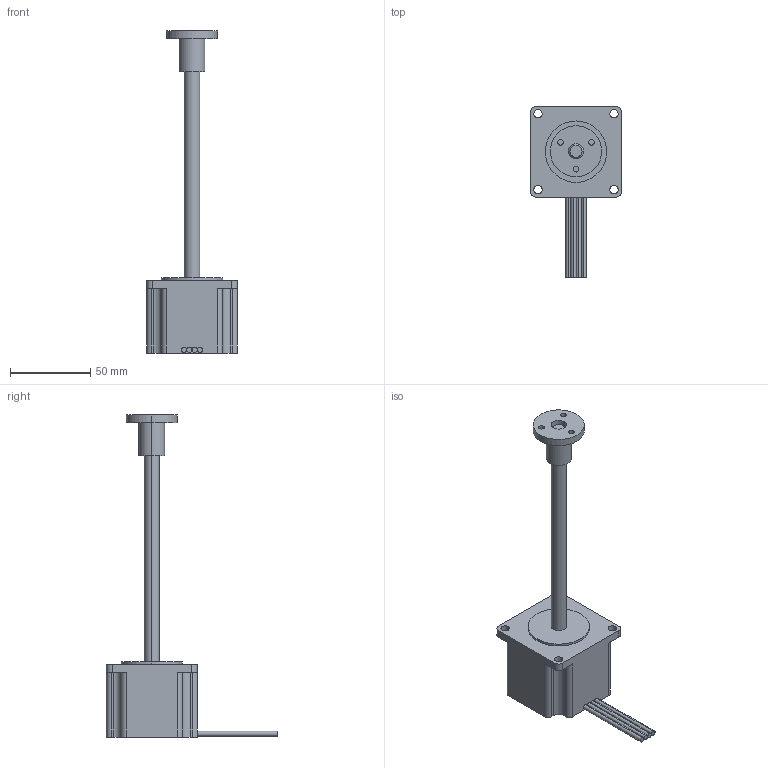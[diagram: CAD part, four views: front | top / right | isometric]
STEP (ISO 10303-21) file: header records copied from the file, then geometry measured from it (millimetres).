
FILE_DESCRIPTION (( 'STEP AP214' ), '1' );
FILE_NAME ('AMETEK-E57H4A-3.25-6-12.step', '2019-02-12T09:28:50', ( '' ), ( '' ), 'SwSTEP 2.0', 'SolidWorks 2019', '' );
FILE_SCHEMA (( 'AUTOMOTIVE_DESIGN' ));
Length unit declared in the file: inch
Products named in the file (3): AMETEK-E57H4A-3.25-6-12_57000_External_Linear_None; AMETEK-E57H4A-3.25-6-12_57000_External_Linear_Nut; AMETEK-E57H4A-3.25-6-12
Assembly tree (2 placements, depth 2):
  AMETEK-E57H4A-3.25-6-12
    AMETEK-E57H4A-3.25-6-12_57000_External_Linear_None
    AMETEK-E57H4A-3.25-6-12_57000_External_Linear_Nut
Bounding box: 56.4 x 106.4 x 200.14 mm (x, y, z)
Volume: 146208.1 mm3; surface area: 27771 mm2
Topology: 2 solids, 2 shells, 83 faces, 208 edges, 138 vertices
Faces by surface type: cylinder 52, plane 29, cone 2
Entity records: 3468 total; most frequent: DIRECTION 490, CARTESIAN_POINT 434, ORIENTED_EDGE 416, EDGE_CURVE 208, AXIS2_PLACEMENT_3D 194, VERTEX_POINT 138, EDGE_LOOP 108, CIRCLE 106
